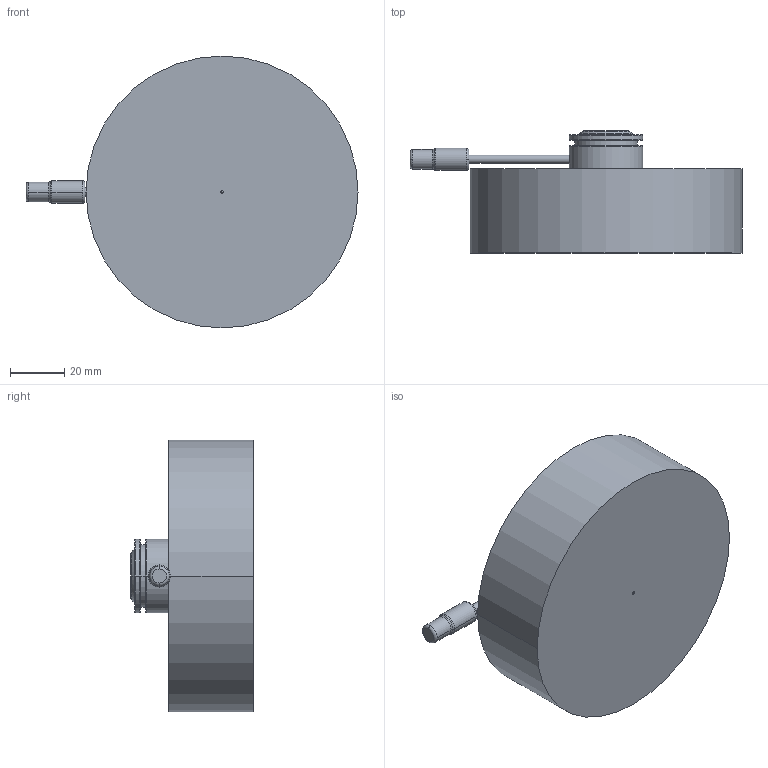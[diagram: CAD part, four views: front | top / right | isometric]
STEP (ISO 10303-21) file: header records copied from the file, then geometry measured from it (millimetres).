
FILE_DESCRIPTION((''),'2;1');
FILE_NAME('M27G101.stp','2020-09-17T12:48:00',(''),(''),'AutoCAD STEP 2000i','AutoCAD 2000i',', , ');
FILE_SCHEMA(('CONFIG_CONTROL_DESIGN'));
Length unit declared in the file: millimetre
Products named in the file (3): DRAWING1; NOZZLE M101G27; MOLD BODY G 27
Assembly tree (2 placements, depth 2):
  DRAWING1
    NOZZLE M101G27
    MOLD BODY G 27
Bounding box: 122.09 x 45 x 100 mm (x, y, z)
Volume: 249572.3 mm3; surface area: 31897 mm2
Topology: 2 solids, 2 shells, 118 faces, 285 edges, 178 vertices
Faces by surface type: cylinder 38, cone 36, bspline 17, plane 15, torus 12
Entity records: 4252 total; most frequent: CARTESIAN_POINT 1301, DIRECTION 681, ORIENTED_EDGE 554, AXIS2_PLACEMENT_3D 303, EDGE_CURVE 277, CIRCLE 199, VERTEX_POINT 176, EDGE_LOOP 133
